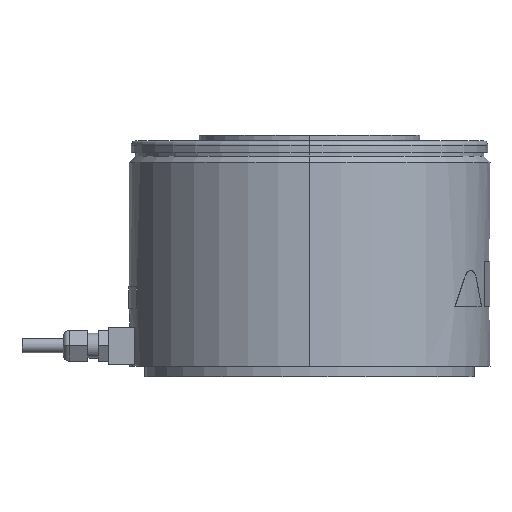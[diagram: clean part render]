
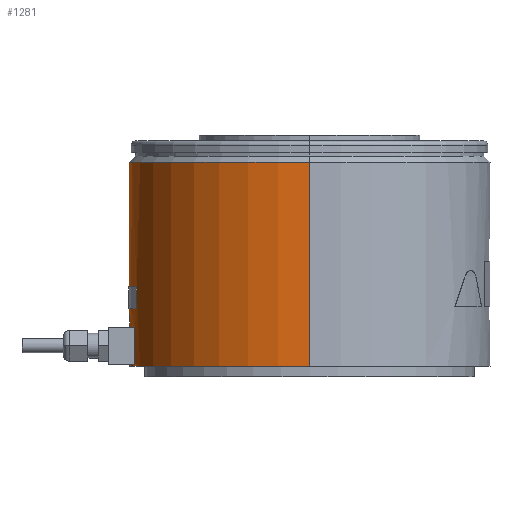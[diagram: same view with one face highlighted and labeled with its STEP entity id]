
A CAD part, left-side view. The second image highlights one B-rep face of the part: STEP entity #1281.
In plain terms, the highlighted cylindrical face has radius 87.5 mm (diameter 175 mm), a partial arc.
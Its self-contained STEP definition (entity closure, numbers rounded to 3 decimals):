
#487 = VERTEX_POINT ( 'NONE', #2470 ) ;
#1192 = EDGE_CURVE ( 'NONE', #1193, #487, #3858, .T. ) ;
#1193 = VERTEX_POINT ( 'NONE', #3853 ) ;
#1253 = ORIENTED_EDGE ( 'NONE', *, *, #1311, .F. ) ;
#1254 = ORIENTED_EDGE ( 'NONE', *, *, #1255, .T. ) ;
#1255 = EDGE_CURVE ( 'NONE', #1285, #1256, #4038, .T. ) ;
#1256 = VERTEX_POINT ( 'NONE', #4033 ) ;
#1257 = ORIENTED_EDGE ( 'NONE', *, *, #1258, .F. ) ;
#1258 = EDGE_CURVE ( 'NONE', #1259, #1256, #4032, .T. ) ;
#1259 = VERTEX_POINT ( 'NONE', #4028 ) ;
#1260 = ORIENTED_EDGE ( 'NONE', *, *, #1261, .F. ) ;
#1261 = EDGE_CURVE ( 'NONE', #1286, #1259, #4027, .T. ) ;
#1262 = EDGE_LOOP ( 'NONE', ( #1263, #1267, #1327, #1330 ) ) ;
#1263 = ORIENTED_EDGE ( 'NONE', *, *, #1264, .T. ) ;
#1264 = EDGE_CURVE ( 'NONE', #1265, #1266, #4022, .T. ) ;
#1265 = VERTEX_POINT ( 'NONE', #4018 ) ;
#1266 = VERTEX_POINT ( 'NONE', #4017 ) ;
#1267 = ORIENTED_EDGE ( 'NONE', *, *, #1269, .T. ) ;
#1269 = EDGE_CURVE ( 'NONE', #1266, #1270, #4016, .T. ) ;
#1270 = VERTEX_POINT ( 'NONE', #4011 ) ;
#1281 = ADVANCED_FACE ( 'NONE', ( #4058, #4057, #4056 ), #4055, .T. ) ;
#1282 = EDGE_LOOP ( 'NONE', ( #1283, #1254, #1257, #1260 ) ) ;
#1283 = ORIENTED_EDGE ( 'NONE', *, *, #1284, .F. ) ;
#1284 = EDGE_CURVE ( 'NONE', #1285, #1286, #4054, .T. ) ;
#1285 = VERTEX_POINT ( 'NONE', #4046 ) ;
#1286 = VERTEX_POINT ( 'NONE', #4045 ) ;
#1311 = EDGE_CURVE ( 'NONE', #1193, #1339, #4136, .T. ) ;
#1327 = ORIENTED_EDGE ( 'NONE', *, *, #1328, .T. ) ;
#1328 = EDGE_CURVE ( 'NONE', #1270, #1329, #4169, .T. ) ;
#1329 = VERTEX_POINT ( 'NONE', #4165 ) ;
#1330 = ORIENTED_EDGE ( 'NONE', *, *, #1331, .T. ) ;
#1331 = EDGE_CURVE ( 'NONE', #1329, #1265, #4164, .T. ) ;
#1332 = EDGE_LOOP ( 'NONE', ( #1333, #1334, #1337, #1253 ) ) ;
#1333 = ORIENTED_EDGE ( 'NONE', *, *, #1192, .T. ) ;
#1334 = ORIENTED_EDGE ( 'NONE', *, *, #1335, .T. ) ;
#1335 = EDGE_CURVE ( 'NONE', #487, #1336, #4159, .T. ) ;
#1336 = VERTEX_POINT ( 'NONE', #4155 ) ;
#1337 = ORIENTED_EDGE ( 'NONE', *, *, #1338, .F. ) ;
#1338 = EDGE_CURVE ( 'NONE', #1339, #1336, #4154, .T. ) ;
#1339 = VERTEX_POINT ( 'NONE', #4149 ) ;
#2470 = CARTESIAN_POINT ( 'NONE',  ( 87.5, 0., 104. ) ) ;
#3853 = CARTESIAN_POINT ( 'NONE',  ( -87.5, 0., 104. ) ) ;
#3854 = DIRECTION ( 'NONE',  ( -1., 0., 0. ) ) ;
#3855 = DIRECTION ( 'NONE',  ( 0., 0., -1. ) ) ;
#3856 = CARTESIAN_POINT ( 'NONE',  ( 0., 0., 104. ) ) ;
#3857 = AXIS2_PLACEMENT_3D ( 'NONE', #3856, #3855, #3854 ) ;
#3858 = CIRCLE ( 'NONE', #3857, 87.5 ) ;
#4011 = CARTESIAN_POINT ( 'NONE',  ( -25., 83.853, 43.5 ) ) ;
#4012 = DIRECTION ( 'NONE',  ( -1., 0., 0. ) ) ;
#4013 = DIRECTION ( 'NONE',  ( 0., 0., 1. ) ) ;
#4014 = CARTESIAN_POINT ( 'NONE',  ( 0., 0., 43.5 ) ) ;
#4015 = AXIS2_PLACEMENT_3D ( 'NONE', #4014, #4013, #4012 ) ;
#4016 = CIRCLE ( 'NONE', #4015, 87.5 ) ;
#4017 = CARTESIAN_POINT ( 'NONE',  ( 25., 83.853, 43.5 ) ) ;
#4018 = CARTESIAN_POINT ( 'NONE',  ( 25., 83.853, 33. ) ) ;
#4019 = DIRECTION ( 'NONE',  ( 0., 0., 1. ) ) ;
#4020 = VECTOR ( 'NONE', #4019, 1000. ) ;
#4021 = CARTESIAN_POINT ( 'NONE',  ( 25., 83.853, -59.236 ) ) ;
#4022 = LINE ( 'NONE', #4021, #4020 ) ;
#4023 = DIRECTION ( 'NONE',  ( -1., 0., 0. ) ) ;
#4024 = DIRECTION ( 'NONE',  ( 0., 0., 1. ) ) ;
#4025 = CARTESIAN_POINT ( 'NONE',  ( 0., 0., 6. ) ) ;
#4026 = AXIS2_PLACEMENT_3D ( 'NONE', #4025, #4024, #4023 ) ;
#4027 = CIRCLE ( 'NONE', #4026, 87.5 ) ;
#4028 = CARTESIAN_POINT ( 'NONE',  ( -21.75, 84.754, 6. ) ) ;
#4029 = DIRECTION ( 'NONE',  ( 0., 0., 1. ) ) ;
#4030 = VECTOR ( 'NONE', #4029, 1000. ) ;
#4031 = CARTESIAN_POINT ( 'NONE',  ( -21.75, 84.754, -59.236 ) ) ;
#4032 = LINE ( 'NONE', #4031, #4030 ) ;
#4033 = CARTESIAN_POINT ( 'NONE',  ( -21.75, 84.754, 24. ) ) ;
#4034 = DIRECTION ( 'NONE',  ( -1., 0., 0. ) ) ;
#4035 = DIRECTION ( 'NONE',  ( 0., 0., 1. ) ) ;
#4036 = CARTESIAN_POINT ( 'NONE',  ( 0., 0., 24. ) ) ;
#4037 = AXIS2_PLACEMENT_3D ( 'NONE', #4036, #4035, #4034 ) ;
#4038 = CIRCLE ( 'NONE', #4037, 87.5 ) ;
#4045 = CARTESIAN_POINT ( 'NONE',  ( 21.75, 84.754, 6. ) ) ;
#4046 = CARTESIAN_POINT ( 'NONE',  ( 21.75, 84.754, 24. ) ) ;
#4047 = DIRECTION ( 'NONE',  ( 0., 0., -1. ) ) ;
#4048 = VECTOR ( 'NONE', #4047, 1000. ) ;
#4049 = CARTESIAN_POINT ( 'NONE',  ( 21.75, 84.754, -59.236 ) ) ;
#4050 = DIRECTION ( 'NONE',  ( -1., 0., 0. ) ) ;
#4051 = DIRECTION ( 'NONE',  ( 0., 0., -1. ) ) ;
#4052 = CARTESIAN_POINT ( 'NONE',  ( 0., 0., -59.236 ) ) ;
#4053 = AXIS2_PLACEMENT_3D ( 'NONE', #4052, #4051, #4050 ) ;
#4054 = LINE ( 'NONE', #4049, #4048 ) ;
#4055 = CYLINDRICAL_SURFACE ( 'NONE', #4053, 87.5 ) ;
#4056 = FACE_OUTER_BOUND ( 'NONE', #1332, .T. ) ;
#4057 = FACE_BOUND ( 'NONE', #1262, .T. ) ;
#4058 = FACE_BOUND ( 'NONE', #1282, .T. ) ;
#4133 = DIRECTION ( 'NONE',  ( 0., 0., -1. ) ) ;
#4134 = VECTOR ( 'NONE', #4133, 1000. ) ;
#4135 = CARTESIAN_POINT ( 'NONE',  ( -87.5, 0., -59.236 ) ) ;
#4136 = LINE ( 'NONE', #4135, #4134 ) ;
#4149 = CARTESIAN_POINT ( 'NONE',  ( -87.5, 0., 5. ) ) ;
#4150 = DIRECTION ( 'NONE',  ( -1., 0., 0. ) ) ;
#4151 = DIRECTION ( 'NONE',  ( 0., 0., -1. ) ) ;
#4152 = CARTESIAN_POINT ( 'NONE',  ( 0., 0., 5. ) ) ;
#4153 = AXIS2_PLACEMENT_3D ( 'NONE', #4152, #4151, #4150 ) ;
#4154 = CIRCLE ( 'NONE', #4153, 87.5 ) ;
#4155 = CARTESIAN_POINT ( 'NONE',  ( 87.5, 0., 5. ) ) ;
#4156 = DIRECTION ( 'NONE',  ( 0., 0., -1. ) ) ;
#4157 = VECTOR ( 'NONE', #4156, 1000. ) ;
#4158 = CARTESIAN_POINT ( 'NONE',  ( 87.5, 0., -59.236 ) ) ;
#4159 = LINE ( 'NONE', #4158, #4157 ) ;
#4160 = DIRECTION ( 'NONE',  ( 1., 0., 0. ) ) ;
#4161 = DIRECTION ( 'NONE',  ( 0., 0., -1. ) ) ;
#4162 = CARTESIAN_POINT ( 'NONE',  ( 0., 0., 33. ) ) ;
#4163 = AXIS2_PLACEMENT_3D ( 'NONE', #4162, #4161, #4160 ) ;
#4164 = CIRCLE ( 'NONE', #4163, 87.5 ) ;
#4165 = CARTESIAN_POINT ( 'NONE',  ( -25., 83.853, 33. ) ) ;
#4166 = DIRECTION ( 'NONE',  ( 0., 0., -1. ) ) ;
#4167 = VECTOR ( 'NONE', #4166, 1000. ) ;
#4168 = CARTESIAN_POINT ( 'NONE',  ( -25., 83.853, -59.236 ) ) ;
#4169 = LINE ( 'NONE', #4168, #4167 ) ;
